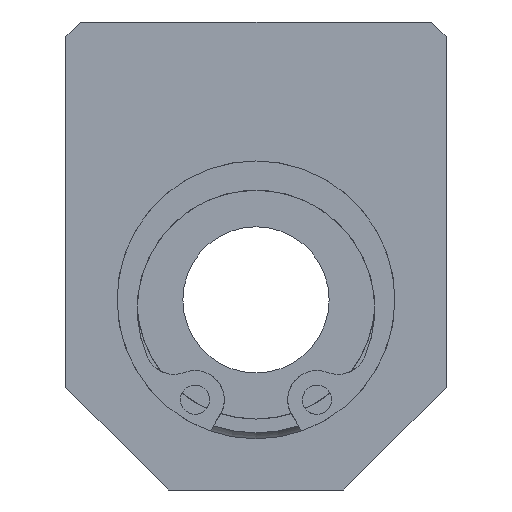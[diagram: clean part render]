
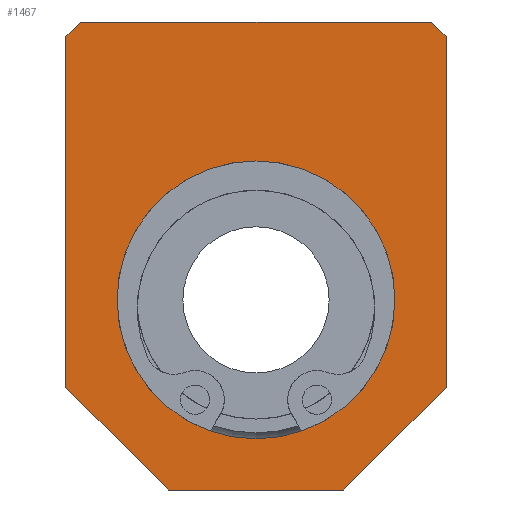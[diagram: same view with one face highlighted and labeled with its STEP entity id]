
A CAD part, left-side view. The second image highlights one B-rep face of the part: STEP entity #1467.
In plain terms, the highlighted planar face has unit normal (-1, 0, 0).
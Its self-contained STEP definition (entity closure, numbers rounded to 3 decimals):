
#1369=CARTESIAN_POINT('',(0.0,-12.,19.0));
#1370=VERTEX_POINT('',#1369);
#1377=CARTESIAN_POINT('',(0.0,-13.,18.0));
#1378=VERTEX_POINT('',#1377);
#1379=CARTESIAN_POINT('',(0.0,-12.,19.0));
#1380=DIRECTION('',(0.0,-0.707,-0.707));
#1381=VECTOR('',#1380,1.414);
#1382=LINE('',#1379,#1381);
#1383=EDGE_CURVE('',#1370,#1378,#1382,.T.);
#1394=CARTESIAN_POINT('',(0.0,0.,3.));
#1395=DIRECTION('',(1.0,0.0,0.0));
#1396=DIRECTION('',(0.0,0.0,-1.0));
#1397=AXIS2_PLACEMENT_3D('',#1394,#1395,#1396);
#1398=PLANE('',#1397);
#1399=ORIENTED_EDGE('',*,*,#1383,.F.);
#1400=CARTESIAN_POINT('',(0.0,12.,19.0));
#1401=VERTEX_POINT('',#1400);
#1402=CARTESIAN_POINT('',(0.0,-12.,19.0));
#1403=DIRECTION('',(0.0,1.0,0.0));
#1404=VECTOR('',#1403,24.);
#1405=LINE('',#1402,#1404);
#1406=EDGE_CURVE('',#1370,#1401,#1405,.T.);
#1407=ORIENTED_EDGE('',*,*,#1406,.T.);
#1408=CARTESIAN_POINT('',(0.0,13.,18.0));
#1409=VERTEX_POINT('',#1408);
#1410=CARTESIAN_POINT('',(0.0,13.,18.0));
#1411=DIRECTION('',(0.0,-0.707,0.707));
#1412=VECTOR('',#1411,1.414);
#1413=LINE('',#1410,#1412);
#1414=EDGE_CURVE('',#1409,#1401,#1413,.T.);
#1415=ORIENTED_EDGE('',*,*,#1414,.F.);
#1416=CARTESIAN_POINT('',(0.0,13.0,-6.));
#1417=VERTEX_POINT('',#1416);
#1418=CARTESIAN_POINT('',(0.0,13.,18.0));
#1419=DIRECTION('',(0.0,0.0,-1.0));
#1420=VECTOR('',#1419,24.);
#1421=LINE('',#1418,#1420);
#1422=EDGE_CURVE('',#1409,#1417,#1421,.T.);
#1423=ORIENTED_EDGE('',*,*,#1422,.T.);
#1424=CARTESIAN_POINT('',(0.0,6.,-13.));
#1425=VERTEX_POINT('',#1424);
#1426=CARTESIAN_POINT('',(0.0,6.,-13.));
#1427=DIRECTION('',(0.0,0.707,0.707));
#1428=VECTOR('',#1427,9.899);
#1429=LINE('',#1426,#1428);
#1430=EDGE_CURVE('',#1425,#1417,#1429,.T.);
#1431=ORIENTED_EDGE('',*,*,#1430,.F.);
#1432=CARTESIAN_POINT('',(0.0,-6.,-13.));
#1433=VERTEX_POINT('',#1432);
#1434=CARTESIAN_POINT('',(0.0,6.,-13.));
#1435=DIRECTION('',(0.0,-1.0,0.0));
#1436=VECTOR('',#1435,12.);
#1437=LINE('',#1434,#1436);
#1438=EDGE_CURVE('',#1425,#1433,#1437,.T.);
#1439=ORIENTED_EDGE('',*,*,#1438,.T.);
#1440=CARTESIAN_POINT('',(0.0,-13.0,-6.));
#1441=VERTEX_POINT('',#1440);
#1442=CARTESIAN_POINT('',(0.0,-13.0,-6.));
#1443=DIRECTION('',(0.0,0.707,-0.707));
#1444=VECTOR('',#1443,9.899);
#1445=LINE('',#1442,#1444);
#1446=EDGE_CURVE('',#1441,#1433,#1445,.T.);
#1447=ORIENTED_EDGE('',*,*,#1446,.F.);
#1448=CARTESIAN_POINT('',(0.0,-13.0,-6.));
#1449=DIRECTION('',(0.0,0.0,1.0));
#1450=VECTOR('',#1449,24.);
#1451=LINE('',#1448,#1450);
#1452=EDGE_CURVE('',#1441,#1378,#1451,.T.);
#1453=ORIENTED_EDGE('',*,*,#1452,.T.);
#1454=EDGE_LOOP('',(#1399,#1407,#1415,#1423,#1431,#1439,#1447,#1453));
#1455=FACE_OUTER_BOUND('',#1454,.T.);
#1456=CARTESIAN_POINT('',(0.0,9.5,0.));
#1457=VERTEX_POINT('',#1456);
#1458=CARTESIAN_POINT('',(0.0,0.0,0.0));
#1459=DIRECTION('',(1.0,0.0,0.0));
#1460=DIRECTION('',(0.0,-1.0,0.0));
#1461=AXIS2_PLACEMENT_3D('',#1458,#1459,#1460);
#1462=CIRCLE('',#1461,9.5);
#1463=EDGE_CURVE('',#1457,#1457,#1462,.T.);
#1464=ORIENTED_EDGE('',*,*,#1463,.T.);
#1465=EDGE_LOOP('',(#1464));
#1466=FACE_BOUND('',#1465,.T.);
#1467=ADVANCED_FACE('',(#1455,#1466),#1398,.F.);
